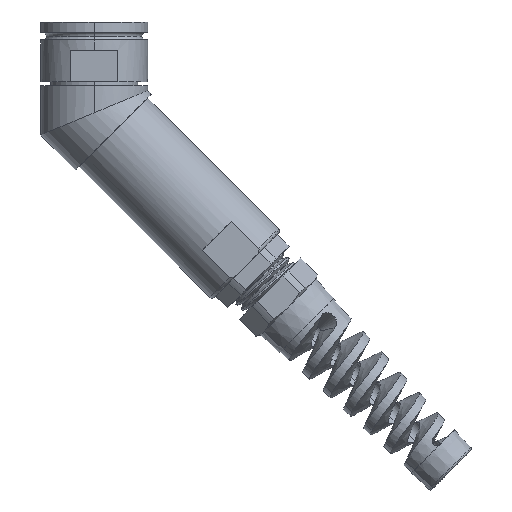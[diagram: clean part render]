
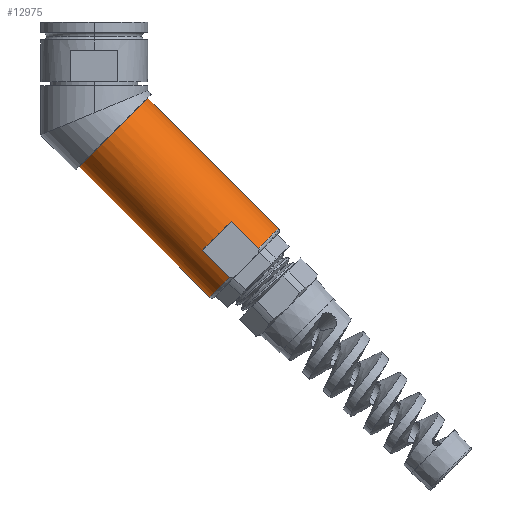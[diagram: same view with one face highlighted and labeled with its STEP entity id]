
A CAD part, left-side view. The second image highlights one B-rep face of the part: STEP entity #12975.
In plain terms, the highlighted cylindrical face has radius 14.77 mm (diameter 29.54 mm), a partial arc.
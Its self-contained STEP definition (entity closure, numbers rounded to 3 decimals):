
#234 = CARTESIAN_POINT ( 'NONE',  ( -13.399, -50.064, -63.263 ) ) ;
#413 = DIRECTION ( 'NONE',  ( 0., 0.707, 0.707 ) ) ;
#599 = VERTEX_POINT ( 'NONE', #15524 ) ;
#630 = CARTESIAN_POINT ( 'NONE',  ( 0., -45.669, -67.658 ) ) ;
#639 = CARTESIAN_POINT ( 'NONE',  ( 0., -5.94, -27.929 ) ) ;
#1111 = EDGE_CURVE ( 'NONE', #12056, #15938, #9175, .T. ) ;
#1249 = CARTESIAN_POINT ( 'NONE',  ( -13.399, -41.802, -55.001 ) ) ;
#2170 = AXIS2_PLACEMENT_3D ( 'NONE', #9979, #17064, #4521 ) ;
#2234 = ORIENTED_EDGE ( 'NONE', *, *, #14689, .T. ) ;
#2244 = CARTESIAN_POINT ( 'NONE',  ( 0., -5.94, -27.929 ) ) ;
#2388 = ORIENTED_EDGE ( 'NONE', *, *, #15696, .F. ) ;
#2459 = DIRECTION ( 'NONE',  ( 0., -0.707, -0.707 ) ) ;
#3213 = ORIENTED_EDGE ( 'NONE', *, *, #5693, .F. ) ;
#3629 = DIRECTION ( 'NONE',  ( 0., -0.707, 0.707 ) ) ;
#4147 = DIRECTION ( 'NONE',  ( 0., -0.707, -0.707 ) ) ;
#4224 = CARTESIAN_POINT ( 'NONE',  ( -13.399, -33.011, -63.791 ) ) ;
#4278 = CARTESIAN_POINT ( 'NONE',  ( 0., 4.504, -38.373 ) ) ;
#4454 = AXIS2_PLACEMENT_3D ( 'NONE', #630, #10547, #3629 ) ;
#4521 = DIRECTION ( 'NONE',  ( 0., -0.707, 0.707 ) ) ;
#4604 = CARTESIAN_POINT ( 'NONE',  ( 0., -16.384, -17.485 ) ) ;
#4767 = AXIS2_PLACEMENT_3D ( 'NONE', #639, #11745, #4827 ) ;
#4827 = DIRECTION ( 'NONE',  ( 0., -0.707, 0.707 ) ) ;
#4928 = EDGE_CURVE ( 'NONE', #12056, #10197, #9619, .T. ) ;
#5022 = AXIS2_PLACEMENT_3D ( 'NONE', #2244, #6078, #8900 ) ;
#5557 = VERTEX_POINT ( 'NONE', #7207 ) ;
#5693 = EDGE_CURVE ( 'NONE', #17378, #12352, #16747, .T. ) ;
#6078 = DIRECTION ( 'NONE',  ( 0., 0.707, 0.707 ) ) ;
#6083 = VECTOR ( 'NONE', #4147, 1000. ) ;
#6706 = EDGE_CURVE ( 'NONE', #15938, #11166, #9578, .T. ) ;
#6757 = CARTESIAN_POINT ( 'NONE',  ( -13.399, -33.011, -63.791 ) ) ;
#6767 = VECTOR ( 'NONE', #15373, 1000. ) ;
#6895 = CARTESIAN_POINT ( 'NONE',  ( -13.399, -41.802, -55.001 ) ) ;
#7207 = CARTESIAN_POINT ( 'NONE',  ( 0., -16.384, -17.485 ) ) ;
#7547 = DIRECTION ( 'NONE',  ( 0., -0.707, -0.707 ) ) ;
#7793 = LINE ( 'NONE', #4604, #9958 ) ;
#8293 = CIRCLE ( 'NONE', #2170, 14.77 ) ;
#8900 = DIRECTION ( 'NONE',  ( 0., -0.707, 0.707 ) ) ;
#9175 = CIRCLE ( 'NONE', #12678, 14.77 ) ;
#9578 = LINE ( 'NONE', #6757, #13769 ) ;
#9619 = LINE ( 'NONE', #6895, #6083 ) ;
#9950 = CARTESIAN_POINT ( 'NONE',  ( 0., 4.504, -38.373 ) ) ;
#9958 = VECTOR ( 'NONE', #413, 1000. ) ;
#9979 = CARTESIAN_POINT ( 'NONE',  ( 0., -45.669, -67.658 ) ) ;
#10197 = VERTEX_POINT ( 'NONE', #234 ) ;
#10347 = EDGE_CURVE ( 'NONE', #17378, #11166, #8293, .T. ) ;
#10480 = CARTESIAN_POINT ( 'NONE',  ( -13.399, -41.273, -72.053 ) ) ;
#10547 = DIRECTION ( 'NONE',  ( 0., 0.707, 0.707 ) ) ;
#11166 = VERTEX_POINT ( 'NONE', #10480 ) ;
#11745 = DIRECTION ( 'NONE',  ( 0., 0.707, 0.707 ) ) ;
#12056 = VERTEX_POINT ( 'NONE', #1249 ) ;
#12319 = CIRCLE ( 'NONE', #4454, 14.77 ) ;
#12352 = VERTEX_POINT ( 'NONE', #9950 ) ;
#12678 = AXIS2_PLACEMENT_3D ( 'NONE', #14286, #7547, #13093 ) ;
#12975 = ADVANCED_FACE ( 'NONE', ( #17258 ), #14541, .T. ) ;
#13093 = DIRECTION ( 'NONE',  ( 0., -0.707, 0.707 ) ) ;
#13249 = ORIENTED_EDGE ( 'NONE', *, *, #6706, .F. ) ;
#13502 = EDGE_CURVE ( 'NONE', #599, #5557, #7793, .T. ) ;
#13769 = VECTOR ( 'NONE', #2459, 1000. ) ;
#14286 = CARTESIAN_POINT ( 'NONE',  ( 0., -37.407, -59.396 ) ) ;
#14541 = CYLINDRICAL_SURFACE ( 'NONE', #5022, 14.77 ) ;
#14689 = EDGE_CURVE ( 'NONE', #10197, #599, #12319, .T. ) ;
#15373 = DIRECTION ( 'NONE',  ( 0., 0.707, 0.707 ) ) ;
#15524 = CARTESIAN_POINT ( 'NONE',  ( 0., -56.113, -57.214 ) ) ;
#15696 = EDGE_CURVE ( 'NONE', #12352, #5557, #17845, .T. ) ;
#15837 = CARTESIAN_POINT ( 'NONE',  ( 0., -35.224, -78.102 ) ) ;
#15938 = VERTEX_POINT ( 'NONE', #4224 ) ;
#16348 = ORIENTED_EDGE ( 'NONE', *, *, #10347, .T. ) ;
#16716 = ORIENTED_EDGE ( 'NONE', *, *, #4928, .T. ) ;
#16747 = LINE ( 'NONE', #4278, #6767 ) ;
#17064 = DIRECTION ( 'NONE',  ( 0., 0.707, 0.707 ) ) ;
#17097 = ORIENTED_EDGE ( 'NONE', *, *, #13502, .T. ) ;
#17258 = FACE_OUTER_BOUND ( 'NONE', #17332, .T. ) ;
#17314 = ORIENTED_EDGE ( 'NONE', *, *, #1111, .F. ) ;
#17332 = EDGE_LOOP ( 'NONE', ( #3213, #16348, #13249, #17314, #16716, #2234, #17097, #2388 ) ) ;
#17378 = VERTEX_POINT ( 'NONE', #15837 ) ;
#17845 = CIRCLE ( 'NONE', #4767, 14.77 ) ;
